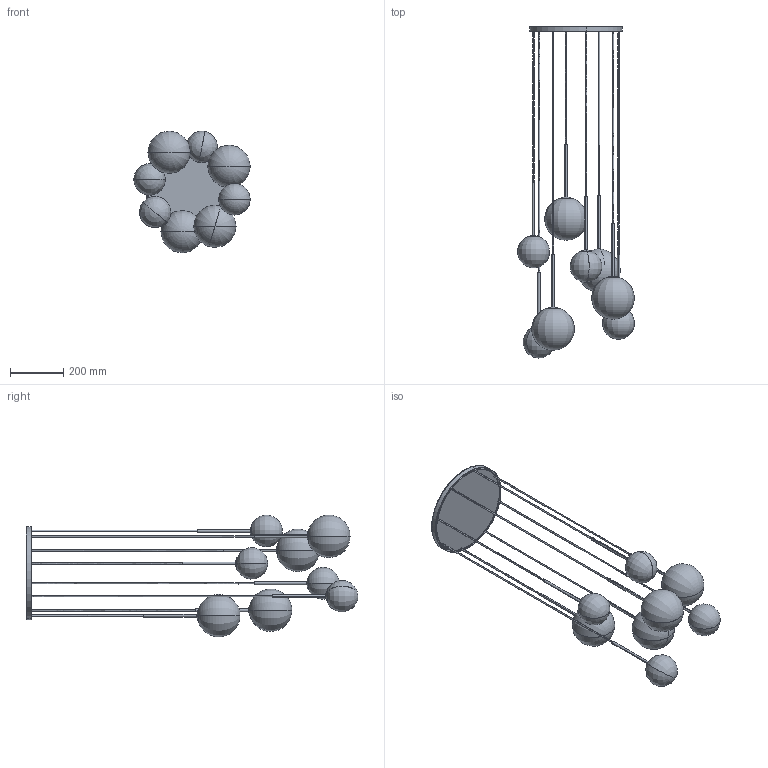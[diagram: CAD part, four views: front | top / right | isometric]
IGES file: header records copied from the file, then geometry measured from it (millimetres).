
Start section: SolidWorks IGES file using analytic representation for surfaces
Global section: file name: C:\Users\anna.bielnik\Desktop\modele 3D tymczasowe\KARO\KARO-10934\Z³o¿enie KARO pm.IGS; native system: SolidWorks 2023; preprocessor: SolidWorks 2023; author: anna.bielnik; date: 230817.115139; units: millimetre
Bounding box: 439.45 x 1250.52 x 459.03 mm (x, y, z)
Surface area: 1252749.3 mm2 (no closed solid volume)
Topology: 0 solids, 0 shells, 193 faces, 3489 edges, 3472 vertices
Faces by surface type: revolution 111, bspline 82
